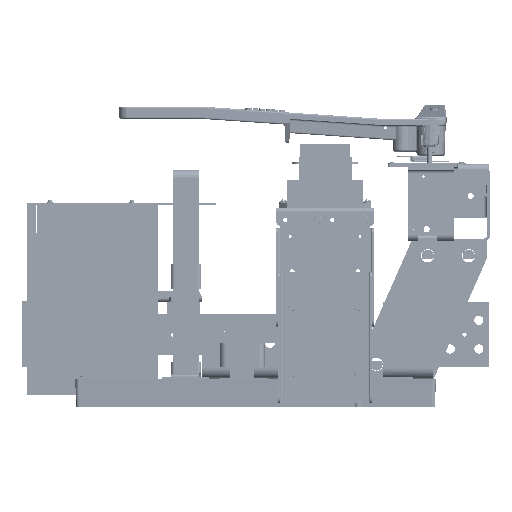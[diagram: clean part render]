
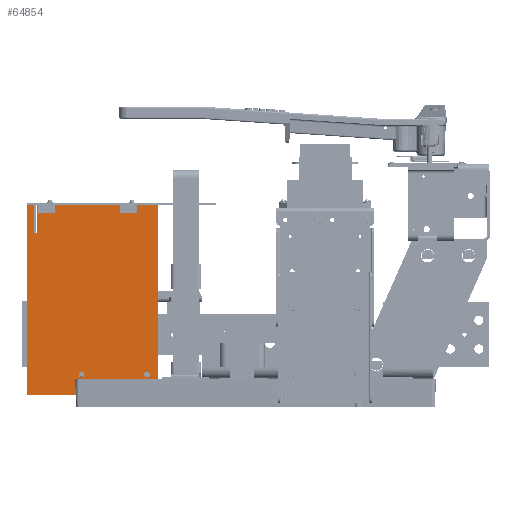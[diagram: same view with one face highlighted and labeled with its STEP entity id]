
A CAD part, left-side view. The second image highlights one B-rep face of the part: STEP entity #64854.
In plain terms, the highlighted planar face has unit normal (-1, 0, 0) as drawn and (0, 0, -1) by its records, which use the part's own axes.
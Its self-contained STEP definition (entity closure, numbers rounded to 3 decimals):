
#3189=FACE_BOUND('',#13573,.T.);
#3190=FACE_BOUND('',#13574,.T.);
#3191=FACE_BOUND('',#13575,.T.);
#3192=FACE_BOUND('',#13576,.T.);
#5100=CIRCLE('',#71307,0.097);
#5102=CIRCLE('',#71310,0.097);
#5104=CIRCLE('',#71313,0.097);
#5106=CIRCLE('',#71316,0.097);
#9472=FACE_OUTER_BOUND('',#13572,.T.);
#13572=EDGE_LOOP('',(#52968,#52969,#52970,#52971,#52972,#52973,#52974,#52975,
#52976,#52977,#52978,#52979));
#13573=EDGE_LOOP('',(#52980));
#13574=EDGE_LOOP('',(#52981));
#13575=EDGE_LOOP('',(#52982));
#13576=EDGE_LOOP('',(#52983));
#18806=LINE('',#109917,#24467);
#18810=LINE('',#109925,#24471);
#18813=LINE('',#109931,#24474);
#18816=LINE('',#109937,#24477);
#18819=LINE('',#109943,#24480);
#18822=LINE('',#109949,#24483);
#18825=LINE('',#109955,#24486);
#18828=LINE('',#109961,#24489);
#18831=LINE('',#109967,#24492);
#18834=LINE('',#109973,#24495);
#18837=LINE('',#109979,#24498);
#18840=LINE('',#109984,#24501);
#24467=VECTOR('',#84768,0.394);
#24471=VECTOR('',#84774,0.394);
#24474=VECTOR('',#84779,0.394);
#24477=VECTOR('',#84784,0.394);
#24480=VECTOR('',#84789,0.394);
#24483=VECTOR('',#84794,0.394);
#24486=VECTOR('',#84799,0.394);
#24489=VECTOR('',#84804,0.394);
#24492=VECTOR('',#84809,0.394);
#24495=VECTOR('',#84814,0.394);
#24498=VECTOR('',#84819,0.394);
#24501=VECTOR('',#84824,0.394);
#30319=VERTEX_POINT('',#109891);
#30321=VERTEX_POINT('',#109897);
#30323=VERTEX_POINT('',#109903);
#30325=VERTEX_POINT('',#109909);
#30327=VERTEX_POINT('',#109915);
#30328=VERTEX_POINT('',#109916);
#30331=VERTEX_POINT('',#109924);
#30333=VERTEX_POINT('',#109930);
#30335=VERTEX_POINT('',#109936);
#30337=VERTEX_POINT('',#109942);
#30339=VERTEX_POINT('',#109948);
#30341=VERTEX_POINT('',#109954);
#30343=VERTEX_POINT('',#109960);
#30345=VERTEX_POINT('',#109966);
#30347=VERTEX_POINT('',#109972);
#30349=VERTEX_POINT('',#109978);
#38202=EDGE_CURVE('',#30319,#30319,#5100,.T.);
#38205=EDGE_CURVE('',#30321,#30321,#5102,.T.);
#38208=EDGE_CURVE('',#30323,#30323,#5104,.T.);
#38211=EDGE_CURVE('',#30325,#30325,#5106,.T.);
#38214=EDGE_CURVE('',#30327,#30328,#18806,.T.);
#38218=EDGE_CURVE('',#30331,#30327,#18810,.T.);
#38221=EDGE_CURVE('',#30333,#30331,#18813,.T.);
#38224=EDGE_CURVE('',#30335,#30333,#18816,.T.);
#38227=EDGE_CURVE('',#30337,#30335,#18819,.T.);
#38230=EDGE_CURVE('',#30339,#30337,#18822,.T.);
#38233=EDGE_CURVE('',#30341,#30339,#18825,.T.);
#38236=EDGE_CURVE('',#30343,#30341,#18828,.T.);
#38239=EDGE_CURVE('',#30345,#30343,#18831,.T.);
#38242=EDGE_CURVE('',#30347,#30345,#18834,.T.);
#38245=EDGE_CURVE('',#30349,#30347,#18837,.T.);
#38248=EDGE_CURVE('',#30328,#30349,#18840,.T.);
#52968=ORIENTED_EDGE('',*,*,#38248,.F.);
#52969=ORIENTED_EDGE('',*,*,#38214,.F.);
#52970=ORIENTED_EDGE('',*,*,#38218,.F.);
#52971=ORIENTED_EDGE('',*,*,#38221,.F.);
#52972=ORIENTED_EDGE('',*,*,#38224,.F.);
#52973=ORIENTED_EDGE('',*,*,#38227,.F.);
#52974=ORIENTED_EDGE('',*,*,#38230,.F.);
#52975=ORIENTED_EDGE('',*,*,#38233,.F.);
#52976=ORIENTED_EDGE('',*,*,#38236,.F.);
#52977=ORIENTED_EDGE('',*,*,#38239,.F.);
#52978=ORIENTED_EDGE('',*,*,#38242,.F.);
#52979=ORIENTED_EDGE('',*,*,#38245,.F.);
#52980=ORIENTED_EDGE('',*,*,#38202,.T.);
#52981=ORIENTED_EDGE('',*,*,#38205,.T.);
#52982=ORIENTED_EDGE('',*,*,#38208,.T.);
#52983=ORIENTED_EDGE('',*,*,#38211,.T.);
#61961=PLANE('',#71331);
#64854=ADVANCED_FACE('',(#9472,#3189,#3190,#3191,#3192),#61961,.F.);
#71307=AXIS2_PLACEMENT_3D('',#109892,#84740,#84741);
#71310=AXIS2_PLACEMENT_3D('',#109898,#84747,#84748);
#71313=AXIS2_PLACEMENT_3D('',#109904,#84754,#84755);
#71316=AXIS2_PLACEMENT_3D('',#109910,#84761,#84762);
#71331=AXIS2_PLACEMENT_3D('',#109987,#84828,#84829);
#84740=DIRECTION('center_axis',(0.,0.,1.));
#84741=DIRECTION('ref_axis',(-1.,0.,0.));
#84747=DIRECTION('center_axis',(0.,0.,1.));
#84748=DIRECTION('ref_axis',(-1.,0.,0.));
#84754=DIRECTION('center_axis',(0.,0.,1.));
#84755=DIRECTION('ref_axis',(-1.,0.,0.));
#84761=DIRECTION('center_axis',(0.,0.,1.));
#84762=DIRECTION('ref_axis',(-1.,0.,0.));
#84768=DIRECTION('',(1.,0.,0.));
#84774=DIRECTION('',(0.,1.,0.));
#84779=DIRECTION('',(1.,0.,0.));
#84784=DIRECTION('',(0.,-1.,0.));
#84789=DIRECTION('',(-1.,0.,0.));
#84794=DIRECTION('',(0.,-1.,0.));
#84799=DIRECTION('',(1.,0.,0.));
#84804=DIRECTION('',(0.,-1.,0.));
#84809=DIRECTION('',(-1.,0.,0.));
#84814=DIRECTION('',(0.,1.,0.));
#84819=DIRECTION('',(1.,0.,0.));
#84824=DIRECTION('',(0.,-1.,0.));
#84828=DIRECTION('center_axis',(0.,0.,1.));
#84829=DIRECTION('ref_axis',(1.,0.,0.));
#109891=CARTESIAN_POINT('',(0.347,2.,0.));
#109892=CARTESIAN_POINT('Origin',(0.25,2.,0.));
#109897=CARTESIAN_POINT('',(0.347,7.,0.));
#109898=CARTESIAN_POINT('Origin',(0.25,7.,0.));
#109903=CARTESIAN_POINT('',(10.472,0.688,0.));
#109904=CARTESIAN_POINT('Origin',(10.375,0.688,0.));
#109909=CARTESIAN_POINT('',(10.472,4.688,0.));
#109910=CARTESIAN_POINT('Origin',(10.375,4.688,0.));
#109915=CARTESIAN_POINT('',(10.625,5.094,0.));
#109916=CARTESIAN_POINT('',(11.156,5.094,0.));
#109917=CARTESIAN_POINT('',(10.625,5.094,0.));
#109924=CARTESIAN_POINT('',(10.625,0.,0.));
#109925=CARTESIAN_POINT('',(10.625,0.,0.));
#109930=CARTESIAN_POINT('',(0.,0.,0.));
#109931=CARTESIAN_POINT('',(0.,0.,0.));
#109936=CARTESIAN_POINT('',(0.,7.422,0.));
#109937=CARTESIAN_POINT('',(0.,7.422,0.));
#109942=CARTESIAN_POINT('',(1.75,7.422,0.));
#109943=CARTESIAN_POINT('',(1.75,7.422,0.));
#109948=CARTESIAN_POINT('',(1.75,7.578,0.));
#109949=CARTESIAN_POINT('',(1.75,7.578,0.));
#109954=CARTESIAN_POINT('',(0.,7.578,0.));
#109955=CARTESIAN_POINT('',(0.,7.578,0.));
#109960=CARTESIAN_POINT('',(0.,8.,0.));
#109961=CARTESIAN_POINT('',(0.,8.,0.));
#109966=CARTESIAN_POINT('',(11.625,8.,0.));
#109967=CARTESIAN_POINT('',(11.625,8.,0.));
#109972=CARTESIAN_POINT('',(11.625,4.719,0.));
#109973=CARTESIAN_POINT('',(11.625,4.719,0.));
#109978=CARTESIAN_POINT('',(11.156,4.719,0.));
#109979=CARTESIAN_POINT('',(11.156,4.719,0.));
#109984=CARTESIAN_POINT('',(11.156,5.094,0.));
#109987=CARTESIAN_POINT('Origin',(5.401,4.41,0.));
